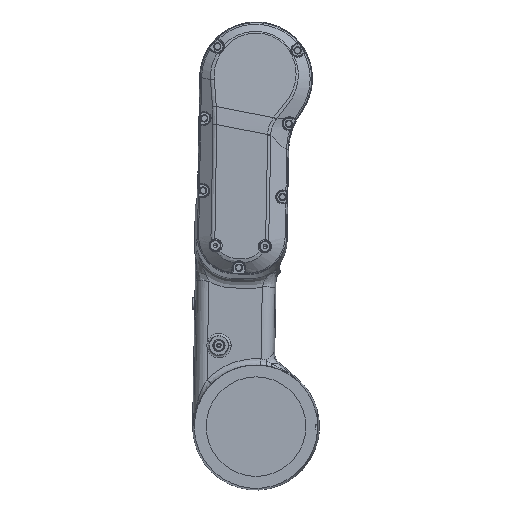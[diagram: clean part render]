
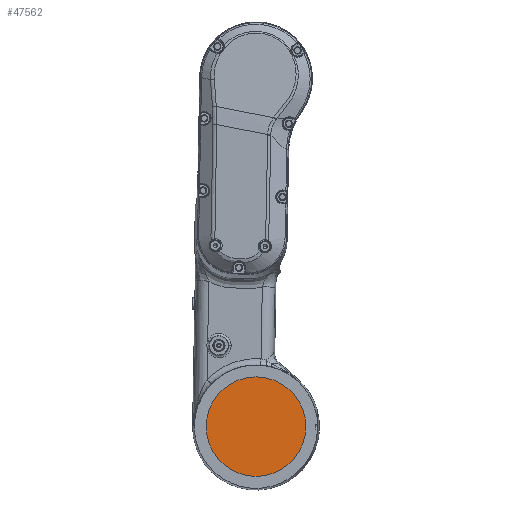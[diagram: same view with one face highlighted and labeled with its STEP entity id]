
A CAD part, front view. The second image highlights one B-rep face of the part: STEP entity #47562.
In plain terms, the highlighted planar face has unit normal (0, -1, 0).
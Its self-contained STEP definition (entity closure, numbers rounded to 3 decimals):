
#3978 = EDGE_CURVE ( 'NONE', #36789, #15365, #11475, .T. ) ;
#4584 = CARTESIAN_POINT ( 'NONE',  ( 0., -52.5, 287. ) ) ;
#5156 = FACE_OUTER_BOUND ( 'NONE', #53165, .T. ) ;
#7768 = CARTESIAN_POINT ( 'NONE',  ( 0., -52.5, 327. ) ) ;
#7798 = ORIENTED_EDGE ( 'NONE', *, *, #3978, .T. ) ;
#9162 = ORIENTED_EDGE ( 'NONE', *, *, #27657, .T. ) ;
#11475 = CIRCLE ( 'NONE', #42766, 40. ) ;
#15365 = VERTEX_POINT ( 'NONE', #46363 ) ;
#15445 = CIRCLE ( 'NONE', #20654, 40. ) ;
#20654 = AXIS2_PLACEMENT_3D ( 'NONE', #34111, #41466, #29220 ) ;
#20813 = DIRECTION ( 'NONE',  ( 0., 0., -1. ) ) ;
#27657 = EDGE_CURVE ( 'NONE', #15365, #36789, #15445, .T. ) ;
#29220 = DIRECTION ( 'NONE',  ( 0., 0., -1. ) ) ;
#33174 = AXIS2_PLACEMENT_3D ( 'NONE', #35097, #46531, #47343 ) ;
#34111 = CARTESIAN_POINT ( 'NONE',  ( 0., -52.5, 327. ) ) ;
#35097 = CARTESIAN_POINT ( 'NONE',  ( 0., -52.5, 327. ) ) ;
#36789 = VERTEX_POINT ( 'NONE', #4584 ) ;
#41466 = DIRECTION ( 'NONE',  ( 0., -1., 0. ) ) ;
#42766 = AXIS2_PLACEMENT_3D ( 'NONE', #7768, #45579, #20813 ) ;
#45579 = DIRECTION ( 'NONE',  ( 0., -1., 0. ) ) ;
#46363 = CARTESIAN_POINT ( 'NONE',  ( 0., -52.5, 367. ) ) ;
#46531 = DIRECTION ( 'NONE',  ( 0., -1., 0. ) ) ;
#47343 = DIRECTION ( 'NONE',  ( 0., 0., -1. ) ) ;
#47562 = ADVANCED_FACE ( 'NONE', ( #5156 ), #51434, .T. ) ;
#51434 = PLANE ( 'NONE',  #33174 ) ;
#53165 = EDGE_LOOP ( 'NONE', ( #9162, #7798 ) ) ;
